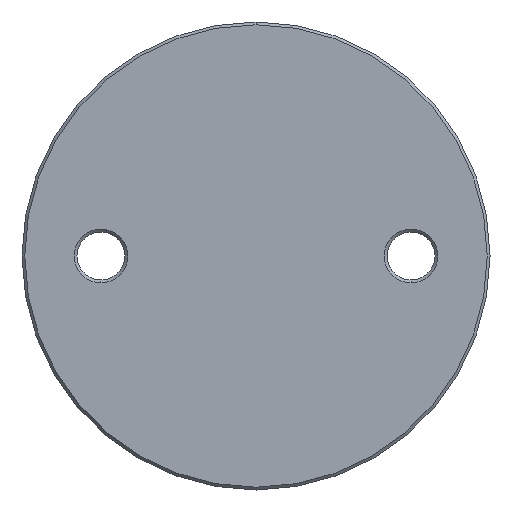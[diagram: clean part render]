
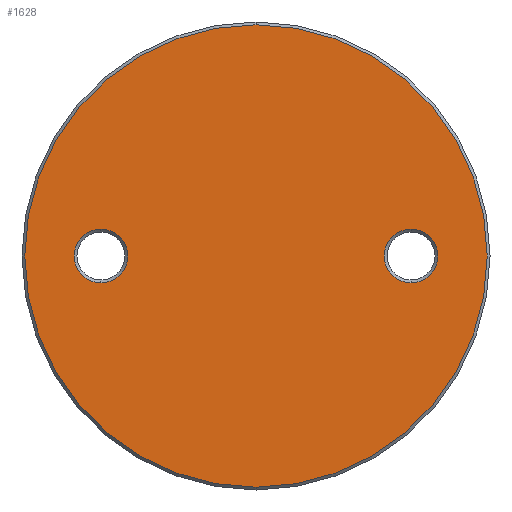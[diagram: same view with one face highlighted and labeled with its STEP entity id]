
A CAD part, front view. The second image highlights one B-rep face of the part: STEP entity #1628.
In plain terms, the highlighted planar face has unit normal (0, -1, 0).
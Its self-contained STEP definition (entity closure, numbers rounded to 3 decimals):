
#290 = EDGE_CURVE ( 'NONE', #5650, #1211, #4576, .T. ) ;
#506 = AXIS2_PLACEMENT_3D ( 'NONE', #5251, #640, #3273 ) ;
#518 = DIRECTION ( 'NONE',  ( 0., 0., -1. ) ) ;
#640 = DIRECTION ( 'NONE',  ( 0., 1., 0. ) ) ;
#908 = EDGE_LOOP ( 'NONE', ( #2048, #6246 ) ) ;
#1004 = CIRCLE ( 'NONE', #3125, 41. ) ;
#1062 = FACE_BOUND ( 'NONE', #8122, .T. ) ;
#1087 = DIRECTION ( 'NONE',  ( 0., 1., 0. ) ) ;
#1177 = EDGE_LOOP ( 'NONE', ( #7928, #6190 ) ) ;
#1211 = VERTEX_POINT ( 'NONE', #6408 ) ;
#1365 = AXIS2_PLACEMENT_3D ( 'NONE', #5033, #6973, #7645 ) ;
#1373 = DIRECTION ( 'NONE',  ( 0., 0., -1. ) ) ;
#1388 = VERTEX_POINT ( 'NONE', #6555 ) ;
#1628 = ADVANCED_FACE ( 'NONE', ( #1062, #5490, #7684 ), #5984, .T. ) ;
#1910 = EDGE_CURVE ( 'NONE', #3681, #6357, #6841, .T. ) ;
#2048 = ORIENTED_EDGE ( 'NONE', *, *, #290, .T. ) ;
#2078 = CARTESIAN_POINT ( 'NONE',  ( 0., -3., -41. ) ) ;
#2138 = ORIENTED_EDGE ( 'NONE', *, *, #5373, .T. ) ;
#2340 = AXIS2_PLACEMENT_3D ( 'NONE', #7354, #7298, #4708 ) ;
#2341 = CARTESIAN_POINT ( 'NONE',  ( 0., -3., 41. ) ) ;
#2365 = CARTESIAN_POINT ( 'NONE',  ( -27.5, -3., 0. ) ) ;
#2539 = AXIS2_PLACEMENT_3D ( 'NONE', #3014, #6848, #518 ) ;
#2730 = DIRECTION ( 'NONE',  ( 0., -1., 0. ) ) ;
#3014 = CARTESIAN_POINT ( 'NONE',  ( 0., -3., 0. ) ) ;
#3125 = AXIS2_PLACEMENT_3D ( 'NONE', #5063, #7751, #3866 ) ;
#3273 = DIRECTION ( 'NONE',  ( 0., 0., -1. ) ) ;
#3603 = CARTESIAN_POINT ( 'NONE',  ( -27.5, -3., -4.75 ) ) ;
#3681 = VERTEX_POINT ( 'NONE', #2078 ) ;
#3866 = DIRECTION ( 'NONE',  ( 0., 0., -1. ) ) ;
#4032 = EDGE_CURVE ( 'NONE', #1211, #5650, #7356, .T. ) ;
#4489 = VERTEX_POINT ( 'NONE', #5526 ) ;
#4576 = CIRCLE ( 'NONE', #2340, 4.75 ) ;
#4708 = DIRECTION ( 'NONE',  ( 0., 0., -1. ) ) ;
#5033 = CARTESIAN_POINT ( 'NONE',  ( 27.5, -3., 0. ) ) ;
#5063 = CARTESIAN_POINT ( 'NONE',  ( 0., -3., 0. ) ) ;
#5251 = CARTESIAN_POINT ( 'NONE',  ( 27.5, -3., 0. ) ) ;
#5344 = CARTESIAN_POINT ( 'NONE',  ( 0., -3., 41.5 ) ) ;
#5373 = EDGE_CURVE ( 'NONE', #4489, #1388, #6287, .T. ) ;
#5490 = FACE_BOUND ( 'NONE', #908, .T. ) ;
#5526 = CARTESIAN_POINT ( 'NONE',  ( 27.5, -3., 4.75 ) ) ;
#5650 = VERTEX_POINT ( 'NONE', #3603 ) ;
#5984 = PLANE ( 'NONE',  #7567 ) ;
#6190 = ORIENTED_EDGE ( 'NONE', *, *, #1910, .T. ) ;
#6246 = ORIENTED_EDGE ( 'NONE', *, *, #4032, .T. ) ;
#6287 = CIRCLE ( 'NONE', #506, 4.75 ) ;
#6357 = VERTEX_POINT ( 'NONE', #2341 ) ;
#6401 = DIRECTION ( 'NONE',  ( 0., 0., -1. ) ) ;
#6408 = CARTESIAN_POINT ( 'NONE',  ( -27.5, -3., 4.75 ) ) ;
#6555 = CARTESIAN_POINT ( 'NONE',  ( 27.5, -3., -4.75 ) ) ;
#6841 = CIRCLE ( 'NONE', #2539, 41. ) ;
#6848 = DIRECTION ( 'NONE',  ( 0., -1., 0. ) ) ;
#6973 = DIRECTION ( 'NONE',  ( 0., 1., 0. ) ) ;
#6993 = EDGE_CURVE ( 'NONE', #6357, #3681, #1004, .T. ) ;
#7016 = ORIENTED_EDGE ( 'NONE', *, *, #8376, .T. ) ;
#7208 = AXIS2_PLACEMENT_3D ( 'NONE', #2365, #1087, #6401 ) ;
#7298 = DIRECTION ( 'NONE',  ( 0., 1., 0. ) ) ;
#7354 = CARTESIAN_POINT ( 'NONE',  ( -27.5, -3., 0. ) ) ;
#7356 = CIRCLE ( 'NONE', #7208, 4.75 ) ;
#7567 = AXIS2_PLACEMENT_3D ( 'NONE', #5344, #2730, #1373 ) ;
#7645 = DIRECTION ( 'NONE',  ( 0., 0., -1. ) ) ;
#7684 = FACE_OUTER_BOUND ( 'NONE', #1177, .T. ) ;
#7751 = DIRECTION ( 'NONE',  ( 0., -1., 0. ) ) ;
#7811 = CIRCLE ( 'NONE', #1365, 4.75 ) ;
#7928 = ORIENTED_EDGE ( 'NONE', *, *, #6993, .T. ) ;
#8122 = EDGE_LOOP ( 'NONE', ( #7016, #2138 ) ) ;
#8376 = EDGE_CURVE ( 'NONE', #1388, #4489, #7811, .T. ) ;
